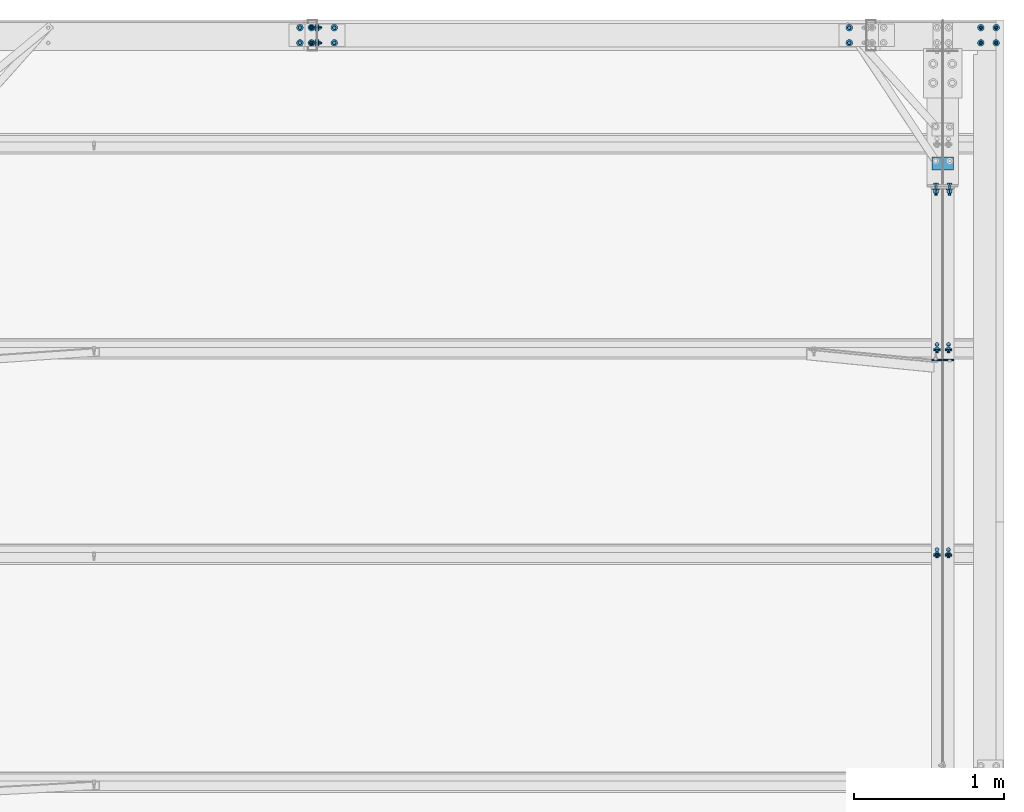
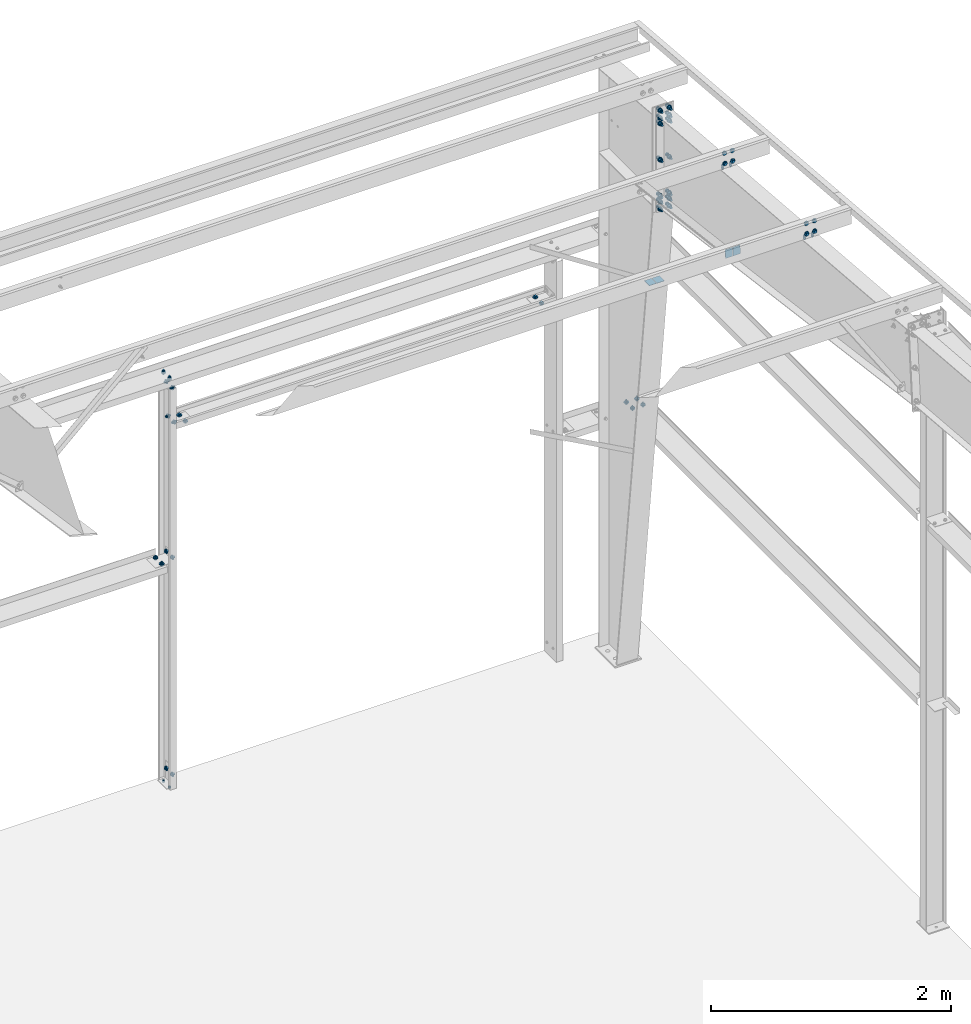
# One storey, part 117 of 185: 19 mechanical fasteners, 4 discrete accessories, 11 elements without a shape of their own.
"""IFC2X3 building model written with IfcOpenShell, lengths in millimetres."""

from ifc_helpers import new_model, si_unit, frame, origin_with_axes, origin_2d_with_axis, place, context, subcontext, project, spatial, polyline, rectangle, circle, outline, extrude, source, transform, mapped, material, type_object, element, aggregate, save


model = new_model("IFC2X3")

# Units and contexts
model_context = context("Model", 3, precision=1e-05, world=origin_with_axes())
body_context = subcontext(model_context, "Body", "Model", "MODEL_VIEW")
ifc_project = project(units=[si_unit("LENGTHUNIT", "METRE", prefix="MILLI"), si_unit("AREAUNIT", "SQUARE_METRE"), si_unit("VOLUMEUNIT", "CUBIC_METRE"), si_unit("MASSUNIT", "GRAM", prefix="KILO"), si_unit("TIMEUNIT", "SECOND"), si_unit("PLANEANGLEUNIT", "RADIAN"), si_unit("SOLIDANGLEUNIT", "STERADIAN"), si_unit("THERMODYNAMICTEMPERATUREUNIT", "DEGREE_CELSIUS"), si_unit("LUMINOUSINTENSITYUNIT", "LUMEN")], contexts=[model_context])

# Site, building, storey
site_placement = place(None, origin_with_axes())
site = spatial("IfcSite", under=ifc_project, at=site_placement, Name="Undefined", CompositionType="ELEMENT")
building_placement = place(site_placement, origin_with_axes())
building = spatial("IfcBuilding", under=site, at=building_placement, Name="Undefined", CompositionType="ELEMENT")
storey_placement = place(building_placement, origin_with_axes())
storey = spatial("IfcBuildingStorey", under=building, at=storey_placement, Name="Undefined", CompositionType="ELEMENT", Elevation=0.0)

# Assembly, mechanical fastener
assembly_1_placement = place(storey_placement, origin_with_axes())
assembly_1 = element("IfcElementAssembly", 1, at=assembly_1_placement, inside=storey, Name="Steel Assembly", AssemblyPlace="NOTDEFINED", PredefinedType="RIGID_FRAME")
ifc_material_1 = material(Name="Undefined")
discrete_accessory_type_1 = type_object("IfcDiscreteAccessoryType", Name="Bolt assembly")
shared_shape_1 = source(origin_with_axes(), body_context, "Body", "SweptSolid", [
    extrude(circle(Radius=7.14374971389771, at=origin_2d_with_axis()), frame((0.0, -1.4900000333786, 0.0), z_axis=(0.0, 1.0, 0.0), x_axis=(1.0, 0.0, 0.0)), (0.0, 0.0, 1.0), 3.2),
    extrude(circle(Radius=7.14374971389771, at=origin_2d_with_axis()), frame((0.0, -1.4900000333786, 0.0), z_axis=(0.0, 1.0, 0.0), x_axis=(1.0, 0.0, 0.0)), (0.0, 0.0, 1.0), 3.2),
    extrude(outline(polyline([(10.9985221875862, 0.0), (5.4992610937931, 9.52499961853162), (-5.4992610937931, 9.52499961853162), (-10.9985221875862, 0.0), (-5.4992610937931, -9.52499961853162), (5.4992610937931, -9.52499961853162), (10.9985221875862, 0.0)])), frame((0.0, -15.0837496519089, 0.0), z_axis=(0.0, 1.0, 0.0), x_axis=(1.0, 0.0, 0.0)), (0.0, 0.0, 1.0), 9.5),
    extrude(circle(Radius=6.34999990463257, at=origin_2d_with_axis()), frame((0.0, -5.5587500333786, 0.0), z_axis=(0.0, 1.0, 0.0), x_axis=(1.0, 0.0, 0.0)), (0.0, 0.0, 1.0), 38.1),
    extrude(circle(Radius=13.4937496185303, at=origin_2d_with_axis()), frame((0.0, -5.5587500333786, 0.0), z_axis=(0.0, 1.0, 0.0), x_axis=(1.0, 0.0, 0.0)), (0.0, 0.0, 1.0), 4.0),
    extrude(circle(Radius=22.2250003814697, at=origin_2d_with_axis()), frame((0.0, 1.5900000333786, 0.0), z_axis=(0.0, 1.0, 0.0), x_axis=(1.0, 0.0, 0.0)), (0.0, 0.0, 1.0), 7.9),
    extrude(outline(polyline([(12.8316099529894, 0.0), (6.4158049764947, 11.1125001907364), (-6.4158049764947, 11.1125001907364), (-12.8316099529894, 0.0), (-6.4158049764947, -11.1125001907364), (6.4158049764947, -11.1125001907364), (12.8316099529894, 0.0)])), frame((0.0, 9.5275000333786, 0.0), z_axis=(0.0, 1.0, 0.0), x_axis=(1.0, 0.0, 0.0)), (0.0, 0.0, 1.0), 12.3),
])
mechanical_fastener_1_placement = place(assembly_1_placement, frame((44805.6, 31902.4, 2286.0), z_axis=(0.0, -1.0, 0.0), x_axis=(1.0, 0.0, 0.0)))
mechanical_fastener_1 = element("IfcMechanicalFastener", 2, at=mechanical_fastener_1_placement, type_object=discrete_accessory_type_1, material=ifc_material_1, Name="Bolt assembly", NominalDiameter=12.6999998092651, NominalLength=38.0999984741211, context=body_context, shape_type="MappedRepresentation", body=[
    mapped(shared_shape_1, transform((0.0, 0.0, -50.7999992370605))),
    mapped(shared_shape_1, transform((101.599998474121, 0.0, -50.7999992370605))),
    mapped(shared_shape_1, transform((0.0, 0.0, 50.7999992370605))),
    mapped(shared_shape_1, transform((101.599998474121, 0.0, 50.7999992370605))),
])
aggregate(assembly_1, [mechanical_fastener_1])

# Assembly, mechanical fasteners
assembly_2_placement = place(storey_placement, origin_with_axes())
assembly_2 = element("IfcElementAssembly", 3, at=assembly_2_placement, inside=storey, Name="Steel Assembly", AssemblyPlace="NOTDEFINED", PredefinedType="RIGID_FRAME")
shared_shape_2 = source(origin_with_axes(), body_context, "Body", "SweptSolid", [
    extrude(circle(Radius=7.14374971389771, at=origin_2d_with_axis()), frame((0.0, -1.59000001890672, 0.0), z_axis=(0.0, 1.0, 0.0), x_axis=(1.0, 0.0, 0.0)), (0.0, 0.0, 1.0), 3.3),
    extrude(circle(Radius=13.4937496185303, at=origin_2d_with_axis()), frame((0.0, -5.5587500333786, 0.0), z_axis=(0.0, 1.0, 0.0), x_axis=(1.0, 0.0, 0.0)), (0.0, 0.0, 1.0), 4.0),
    extrude(circle(Radius=22.2250003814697, at=origin_2d_with_axis()), frame((0.0, 1.5900000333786, 0.0), z_axis=(0.0, 1.0, 0.0), x_axis=(1.0, 0.0, 0.0)), (0.0, 0.0, 1.0), 7.9),
    extrude(outline(polyline([(12.8316099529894, 0.0), (6.4158049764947, 11.1125001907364), (-6.4158049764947, 11.1125001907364), (-12.8316099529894, 0.0), (-6.4158049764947, -11.1125001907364), (6.4158049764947, -11.1125001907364), (12.8316099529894, 0.0)])), frame((0.0, 9.5275000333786, 0.0), z_axis=(0.0, 1.0, 0.0), x_axis=(1.0, 0.0, 0.0)), (0.0, 0.0, 1.0), 12.3),
])
mechanical_fastener_2_placement = place(assembly_2_placement, frame((44513.5, 29818.2760586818, 6227.16757843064), z_axis=(-1.0, 0.0, 0.0), x_axis=(0.0, -0.0830454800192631, -0.996545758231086)))
mechanical_fastener_2 = element("IfcMechanicalFastener", 4, at=mechanical_fastener_2_placement, type_object=discrete_accessory_type_1, material=ifc_material_1, Name="Bolt assembly", NominalDiameter=12.6999998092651, NominalLength=38.0999984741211, context=body_context, shape_type="MappedRepresentation", body=[
    mapped(shared_shape_2, transform((0.0, 0.0, 0.0))),
    mapped(shared_shape_2, transform((101.599998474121, 0.0, 0.0))),
])
mechanical_fastener_3_placement = place(assembly_2_placement, frame((44589.7, 29818.2760586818, 6227.16757843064), z_axis=(-1.0, 0.0, 0.0), x_axis=(0.0, -0.0830454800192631, -0.996545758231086)))
mechanical_fastener_3 = element("IfcMechanicalFastener", 5, at=mechanical_fastener_3_placement, type_object=discrete_accessory_type_1, material=ifc_material_1, Name="Bolt assembly", NominalDiameter=12.6999998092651, NominalLength=38.0999984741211, context=body_context, shape_type="MappedRepresentation", body=[
    mapped(shared_shape_2, transform((0.0, 0.0, 0.0))),
    mapped(shared_shape_2, transform((101.599998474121, 0.0, 0.0))),
])

assembly_3_placement = place(storey_placement, origin_with_axes())
assembly_3 = element("IfcElementAssembly", 6, at=assembly_3_placement, inside=storey, Name="Steel Assembly", AssemblyPlace="NOTDEFINED", PredefinedType="RIGID_FRAME")
mechanical_fastener_4_placement = place(assembly_3_placement, frame((44513.5, 28451.413896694, 6341.07275883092), z_axis=(-1.0, 0.0, 0.0), x_axis=(0.0, -0.0830454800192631, -0.996545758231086)))
mechanical_fastener_4 = element("IfcMechanicalFastener", 7, at=mechanical_fastener_4_placement, type_object=discrete_accessory_type_1, material=ifc_material_1, Name="Bolt assembly", NominalDiameter=12.6999998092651, NominalLength=38.0999984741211, context=body_context, shape_type="MappedRepresentation", body=[
    mapped(shared_shape_2, transform((0.0, 0.0, 0.0))),
    mapped(shared_shape_2, transform((101.599998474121, 0.0, 0.0))),
])
mechanical_fastener_5_placement = place(assembly_3_placement, frame((44589.7, 28451.413896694, 6341.07275883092), z_axis=(-1.0, 0.0, 0.0), x_axis=(0.0, -0.0830454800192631, -0.996545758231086)))
mechanical_fastener_5 = element("IfcMechanicalFastener", 8, at=mechanical_fastener_5_placement, type_object=discrete_accessory_type_1, material=ifc_material_1, Name="Bolt assembly", NominalDiameter=12.6999998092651, NominalLength=38.0999984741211, context=body_context, shape_type="MappedRepresentation", body=[
    mapped(shared_shape_2, transform((0.0, 0.0, 0.0))),
    mapped(shared_shape_2, transform((101.599998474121, 0.0, 0.0))),
])

# Assembly, mechanical fastener
assembly_4_placement = place(storey_placement, origin_with_axes())
assembly_4 = element("IfcElementAssembly", 9, at=assembly_4_placement, inside=storey, Name="Steel Assembly", AssemblyPlace="NOTDEFINED", PredefinedType="RIGID_FRAME")
shared_shape_3 = source(origin_with_axes(), body_context, "Body", "SweptSolid", [
    extrude(circle(Radius=7.14374971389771, at=origin_2d_with_axis()), frame((0.0, -3.08000006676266, 0.0), z_axis=(0.0, 1.0, 0.0), x_axis=(1.0, 0.0, 0.0)), (0.0, 0.0, 1.0), 3.2),
    extrude(circle(Radius=7.14374971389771, at=origin_2d_with_axis()), frame((0.0, -0.1, 0.0), z_axis=(0.0, 1.0, 0.0), x_axis=(1.0, 0.0, 0.0)), (0.0, 0.0, 1.0), 3.3),
    extrude(outline(polyline([(10.9985221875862, 0.0), (5.4992610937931, 9.52499961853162), (-5.4992610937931, 9.52499961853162), (-10.9985221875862, 0.0), (-5.4992610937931, -9.52499961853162), (5.4992610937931, -9.52499961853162), (10.9985221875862, 0.0)])), frame((0.0, -16.6737496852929, 0.0), z_axis=(0.0, 1.0, 0.0), x_axis=(1.0, 0.0, 0.0)), (0.0, 0.0, 1.0), 9.5),
    extrude(circle(Radius=6.34999990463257, at=origin_2d_with_axis()), frame((0.0, -7.14875006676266, 0.0), z_axis=(0.0, 1.0, 0.0), x_axis=(1.0, 0.0, 0.0)), (0.0, 0.0, 1.0), 38.1),
    extrude(circle(Radius=13.4937496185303, at=origin_2d_with_axis()), frame((0.0, -7.14875006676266, 0.0), z_axis=(0.0, 1.0, 0.0), x_axis=(1.0, 0.0, 0.0)), (0.0, 0.0, 1.0), 4.0),
    extrude(circle(Radius=22.2250003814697, at=origin_2d_with_axis()), frame((0.0, 3.17500610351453, 0.0), z_axis=(0.0, 1.0, 0.0), x_axis=(1.0, 0.0, 0.0)), (0.0, 0.0, 1.0), 7.9),
    extrude(outline(polyline([(12.8316099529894, 0.0), (6.4158049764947, 11.1125001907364), (-6.4158049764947, 11.1125001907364), (-12.8316099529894, 0.0), (-6.4158049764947, -11.1125001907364), (6.4158049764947, -11.1125001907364), (12.8316099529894, 0.0)])), frame((0.0, 11.1125061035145, 0.0), z_axis=(0.0, 1.0, 0.0), x_axis=(1.0, 0.0, 0.0)), (0.0, 0.0, 1.0), 12.3),
])
mechanical_fastener_6_placement = place(assembly_4_placement, frame((40386.0, 31902.4, 3695.7), z_axis=(0.0, 1.0, 0.0), x_axis=(0.0, 0.0, 1.0)))
mechanical_fastener_6 = element("IfcMechanicalFastener", 10, at=mechanical_fastener_6_placement, type_object=discrete_accessory_type_1, material=ifc_material_1, Name="Bolt assembly", NominalDiameter=12.6999998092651, NominalLength=38.0999984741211, context=body_context, shape_type="MappedRepresentation", body=[
    mapped(shared_shape_3, transform((0.0, 0.0, -50.7999992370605))),
    mapped(shared_shape_3, transform((0.0, 0.0, 50.7999992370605))),
])

# Assembly, mechanical fasteners
assembly_5_placement = place(storey_placement, origin_with_axes())
assembly_5 = element("IfcElementAssembly", 11, at=assembly_5_placement, inside=storey, Name="Steel Assembly", AssemblyPlace="NOTDEFINED", PredefinedType="RIGID_FRAME")
mechanical_fastener_7_placement = place(assembly_5_placement, frame((40347.9, 31902.4, 4164.00999996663), z_axis=(0.0, -1.0, 0.0), x_axis=(-1.0, 0.0, 0.0)))
mechanical_fastener_7 = element("IfcMechanicalFastener", 12, at=mechanical_fastener_7_placement, type_object=discrete_accessory_type_1, material=ifc_material_1, Name="Bolt assembly", NominalDiameter=12.6999998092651, NominalLength=38.0999984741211, context=body_context, shape_type="MappedRepresentation", body=[
    mapped(shared_shape_3, transform((0.0, 0.0, -50.7999992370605))),
    mapped(shared_shape_3, transform((0.0, 0.0, 50.7999992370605))),
])
mechanical_fastener_8_placement = place(assembly_5_placement, frame((40382.8199996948, 31902.4, 4051.3), z_axis=(0.0, 1.0, 0.0), x_axis=(0.0, 0.0, -1.0)))
mechanical_fastener_8 = element("IfcMechanicalFastener", 13, at=mechanical_fastener_8_placement, type_object=discrete_accessory_type_1, material=ifc_material_1, Name="Bolt assembly", NominalDiameter=12.6999998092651, NominalLength=38.0999984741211, context=body_context, shape_type="MappedRepresentation", body=[
    mapped(shared_shape_3, transform((0.0, 0.0, -50.7999992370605))),
    mapped(shared_shape_3, transform((0.0, 0.0, 50.7999992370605))),
])
aggregate(assembly_5, [mechanical_fastener_7, mechanical_fastener_8])

# Assembly, mechanical fastener
assembly_6_placement = place(storey_placement, origin_with_axes())
assembly_6 = element("IfcElementAssembly", 14, at=assembly_6_placement, inside=storey, Name="Steel Assembly", AssemblyPlace="NOTDEFINED", PredefinedType="RIGID_FRAME")
mechanical_fastener_9_placement = place(assembly_6_placement, frame((40271.7, 31902.4, 2287.59000003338), z_axis=(0.0, 1.0, 0.0), x_axis=(-1.0, 0.0, 0.0)))
mechanical_fastener_9 = element("IfcMechanicalFastener", 15, at=mechanical_fastener_9_placement, type_object=discrete_accessory_type_1, material=ifc_material_1, Name="Bolt assembly", NominalDiameter=12.6999998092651, NominalLength=38.0999984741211, context=body_context, shape_type="MappedRepresentation", body=[
    mapped(shared_shape_3, transform((0.0, 0.0, -50.7999992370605))),
    mapped(shared_shape_3, transform((0.0, 0.0, 50.7999992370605))),
])

assembly_7_placement = place(storey_placement, origin_with_axes())
assembly_7 = element("IfcElementAssembly", 16, at=assembly_7_placement, inside=storey, Name="Steel Assembly", AssemblyPlace="NOTDEFINED", PredefinedType="RIGID_FRAME")
shared_shape_4 = source(origin_with_axes(), body_context, "Body", "SweptSolid", [
    extrude(circle(Radius=7.14374971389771, at=origin_2d_with_axis()), frame((0.0, -3.17500610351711, 0.0), z_axis=(0.0, 1.0, 0.0), x_axis=(1.0, 0.0, 0.0)), (0.0, 0.0, 1.0), 3.3),
    extrude(outline(polyline([(12.8316099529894, 0.0), (6.4158049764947, 11.1125001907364), (-6.4158049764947, 11.1125001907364), (-12.8316099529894, 0.0), (-6.4158049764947, -11.1125001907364), (6.4158049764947, -11.1125001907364), (12.8316099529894, 0.0)])), frame((0.0, 0.0, 0.0), z_axis=(0.0, 1.0, 0.0), x_axis=(1.0, 0.0, 0.0)), (0.0, 0.0, 1.0), 12.3),
])
mechanical_fastener_10_placement = place(assembly_7_placement, frame((40347.9, 31902.4, 0.0), z_axis=(0.0, -1.0, 0.0), x_axis=(-1.0, 0.0, 0.0)))
mechanical_fastener_10 = element("IfcMechanicalFastener", 17, at=mechanical_fastener_10_placement, type_object=discrete_accessory_type_1, material=ifc_material_1, Name="Bolt assembly", NominalDiameter=12.6999998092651, NominalLength=38.0999984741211, context=body_context, shape_type="MappedRepresentation", body=[
    mapped(shared_shape_4, transform((0.0, 0.0, -50.7999992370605))),
    mapped(shared_shape_4, transform((0.0, 0.0, 50.7999992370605))),
])
aggregate(assembly_7, [mechanical_fastener_10])

assembly_8_placement = place(storey_placement, origin_with_axes())
assembly_8 = element("IfcElementAssembly", 18, at=assembly_8_placement, inside=storey, Name="Steel Assembly", AssemblyPlace="NOTDEFINED", PredefinedType="RIGID_FRAME")
shared_shape_5 = source(origin_with_axes(), body_context, "Body", "SweptSolid", [
    extrude(circle(Radius=7.14374971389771, at=origin_2d_with_axis()), frame((0.0, -0.1, 0.0), z_axis=(0.0, 1.0, 0.0), x_axis=(1.0, 0.0, 0.0)), (0.0, 0.0, 1.0), 3.3),
    extrude(circle(Radius=7.14374971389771, at=origin_2d_with_axis()), frame((0.0, -3.07500000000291, 0.0), z_axis=(0.0, 1.0, 0.0), x_axis=(1.0, 0.0, 0.0)), (0.0, 0.0, 1.0), 3.2),
    extrude(outline(polyline([(10.9985221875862, 0.0), (5.4992610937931, 9.52499961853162), (-5.4992610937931, 9.52499961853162), (-10.9985221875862, 0.0), (-5.4992610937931, -9.52499961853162), (5.4992610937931, -9.52499961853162), (10.9985221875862, 0.0)])), frame((0.0, -11.1125000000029, 0.0), z_axis=(0.0, 1.0, 0.0), x_axis=(1.0, 0.0, 0.0)), (0.0, 0.0, 1.0), 7.9),
    extrude(circle(Radius=6.34999990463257, at=origin_2d_with_axis()), frame((0.0, -3.17500610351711, 0.0), z_axis=(0.0, 1.0, 0.0), x_axis=(1.0, 0.0, 0.0)), (0.0, 0.0, 1.0), 25.4),
    extrude(circle(Radius=22.2250003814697, at=origin_2d_with_axis()), frame((0.0, 3.17500610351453, 0.0), z_axis=(0.0, 1.0, 0.0), x_axis=(1.0, 0.0, 0.0)), (0.0, 0.0, 1.0), 7.9),
    extrude(outline(polyline([(12.8316099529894, 0.0), (6.4158049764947, 11.1125001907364), (-6.4158049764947, 11.1125001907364), (-12.8316099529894, 0.0), (-6.4158049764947, -11.1125001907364), (6.4158049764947, -11.1125001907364), (12.8316099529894, 0.0)])), frame((0.0, 11.1125061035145, 0.0), z_axis=(0.0, 1.0, 0.0), x_axis=(1.0, 0.0, 0.0)), (0.0, 0.0, 1.0), 12.3),
])
mechanical_fastener_11_placement = place(assembly_8_placement, frame((40382.825, 31902.4, 114.3), z_axis=(0.0, -1.0, 0.0), x_axis=(0.0, 0.0, 1.0)))
mechanical_fastener_11 = element("IfcMechanicalFastener", 19, at=mechanical_fastener_11_placement, type_object=discrete_accessory_type_1, material=ifc_material_1, Name="Bolt assembly", NominalDiameter=12.6999998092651, NominalLength=25.3999996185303, context=body_context, shape_type="MappedRepresentation", body=[
    mapped(shared_shape_5, transform((0.0, 0.0, -50.7999992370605))),
    mapped(shared_shape_5, transform((0.0, 0.0, 50.7999992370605))),
])
aggregate(assembly_8, [mechanical_fastener_11])

assembly_9_placement = place(storey_placement, origin_with_axes())
assembly_9 = element("IfcElementAssembly", 20, at=assembly_9_placement, inside=storey, Name="Steel Assembly", AssemblyPlace="NOTDEFINED", PredefinedType="RIGID_FRAME")
shared_shape_6 = source(origin_with_axes(), body_context, "Body", "SweptSolid", [
    extrude(circle(Radius=7.14374971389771, at=origin_2d_with_axis()), frame((0.0, -3.08000006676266, 0.0), z_axis=(0.0, 1.0, 0.0), x_axis=(1.0, 0.0, 0.0)), (0.0, 0.0, 1.0), 3.2),
    extrude(circle(Radius=7.14374971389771, at=origin_2d_with_axis()), frame((0.0, -0.1, 0.0), z_axis=(0.0, 1.0, 0.0), x_axis=(1.0, 0.0, 0.0)), (0.0, 0.0, 1.0), 3.3),
    extrude(outline(polyline([(10.9985221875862, 0.0), (5.4992610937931, 9.52499961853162), (-5.4992610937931, 9.52499961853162), (-10.9985221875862, 0.0), (-5.4992610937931, -9.52499961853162), (5.4992610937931, -9.52499961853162), (10.9985221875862, 0.0)])), frame((0.0, -11.1175003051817, 0.0), z_axis=(0.0, 1.0, 0.0), x_axis=(1.0, 0.0, 0.0)), (0.0, 0.0, 1.0), 7.9),
    extrude(circle(Radius=6.34999990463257, at=origin_2d_with_axis()), frame((0.0, -3.18000030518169, 0.0), z_axis=(0.0, 1.0, 0.0), x_axis=(1.0, 0.0, 0.0)), (0.0, 0.0, 1.0), 25.4),
    extrude(circle(Radius=22.2250003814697, at=origin_2d_with_axis()), frame((0.0, 3.17500610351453, 0.0), z_axis=(0.0, 1.0, 0.0), x_axis=(1.0, 0.0, 0.0)), (0.0, 0.0, 1.0), 7.9),
    extrude(outline(polyline([(12.8316099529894, 0.0), (6.4158049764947, 11.1125001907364), (-6.4158049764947, 11.1125001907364), (-12.8316099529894, 0.0), (-6.4158049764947, -11.1125001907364), (6.4158049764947, -11.1125001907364), (12.8316099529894, 0.0)])), frame((0.0, 11.1125061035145, 0.0), z_axis=(0.0, 1.0, 0.0), x_axis=(1.0, 0.0, 0.0)), (0.0, 0.0, 1.0), 12.3),
])
mechanical_fastener_12_placement = place(assembly_9_placement, frame((43929.3, 31902.4, 3660.78000030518), z_axis=(0.0, 1.0, 0.0), x_axis=(-1.0, 0.0, 0.0)))
mechanical_fastener_12 = element("IfcMechanicalFastener", 21, at=mechanical_fastener_12_placement, type_object=discrete_accessory_type_1, material=ifc_material_1, Name="Bolt assembly", NominalDiameter=12.6999998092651, NominalLength=25.3999996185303, context=body_context, shape_type="MappedRepresentation", body=[
    mapped(shared_shape_6, transform((0.0, 0.0, -50.7999992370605))),
    mapped(shared_shape_6, transform((0.0, 0.0, 50.7999992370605))),
])
aggregate(assembly_9, [mechanical_fastener_12])

# Mechanical fastener
mechanical_fastener_13_placement = place(assembly_4_placement, frame((40500.3, 31902.4, 3660.78000030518), z_axis=(0.0, -1.0, 0.0), x_axis=(1.0, 0.0, 0.0)))
mechanical_fastener_13 = element("IfcMechanicalFastener", 22, at=mechanical_fastener_13_placement, type_object=discrete_accessory_type_1, material=ifc_material_1, Name="Bolt assembly", NominalDiameter=12.6999998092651, NominalLength=25.3999996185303, context=body_context, shape_type="MappedRepresentation", body=[
    mapped(shared_shape_6, transform((0.0, 0.0, -50.7999992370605))),
    mapped(shared_shape_6, transform((0.0, 0.0, 50.7999992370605))),
])

aggregate(assembly_4, [mechanical_fastener_6, mechanical_fastener_13])

mechanical_fastener_14_placement = place(assembly_6_placement, frame((40382.8199996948, 31902.4, 2324.1), z_axis=(0.0, -1.0, 0.0), x_axis=(0.0, 0.0, 1.0)))
mechanical_fastener_14 = element("IfcMechanicalFastener", 23, at=mechanical_fastener_14_placement, type_object=discrete_accessory_type_1, material=ifc_material_1, Name="Bolt assembly", NominalDiameter=12.6999998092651, NominalLength=25.3999996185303, context=body_context, shape_type="MappedRepresentation", body=[
    mapped(shared_shape_6, transform((0.0, 0.0, -50.7999992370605))),
    mapped(shared_shape_6, transform((0.0, 0.0, 50.7999992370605))),
])

aggregate(assembly_6, [mechanical_fastener_14, mechanical_fastener_9])

# Assembly, discrete accessories
assembly_10_placement = place(storey_placement, origin_with_axes())
assembly_10 = element("IfcElementAssembly", 24, at=assembly_10_placement, inside=storey, Name="Steel Assembly", AssemblyPlace="NOTDEFINED", PredefinedType="RIGID_FRAME")
ifc_material_2 = material(Name="STEEL/55")
discrete_accessory_type_2 = type_object("IfcDiscreteAccessoryType", Name="FLANGE BRACE FLIP")
discrete_accessory_1_placement = place(assembly_10_placement, frame((44553.98125, 31047.9856495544, 4163.89185), z_axis=(0.0, -1.0, 0.0), x_axis=(1.0, 0.0, 0.0)))
discrete_accessory_1 = element("IfcDiscreteAccessory", 25, at=discrete_accessory_1_placement, type_object=discrete_accessory_type_2, material=ifc_material_2, Name="FLANGE BRACE FLIP", ObjectType="PL1/8\"X2 3/4\"", context=body_context, shape_type="SweptSolid", body=[
    extrude(rectangle(XDim=3.4163, YDim=85.725, at=origin_2d_with_axis()), frame((69.8499999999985, 0.0, 0.0), z_axis=(-1.0, 0.0, 0.0), x_axis=(0.0, -1.0, 0.0)), (0.0, 0.0, 1.0), 69.8),
])
discrete_accessory_2_placement = place(assembly_10_placement, frame((44549.21875, 31047.9856495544, 4163.89185), z_axis=(0.0, -1.0, 0.0), x_axis=(-1.0, 0.0, 0.0)))
discrete_accessory_2 = element("IfcDiscreteAccessory", 26, at=discrete_accessory_2_placement, type_object=discrete_accessory_type_2, material=ifc_material_2, Name="FLANGE BRACE FLIP", ObjectType="PL1/8\"X2 3/4\"", context=body_context, shape_type="SweptSolid", body=[
    extrude(rectangle(XDim=3.4163, YDim=85.725, at=origin_2d_with_axis()), frame((69.8499999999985, 0.0, 0.0), z_axis=(-1.0, 0.0, 0.0), x_axis=(0.0, -1.0, 0.0)), (0.0, 0.0, 1.0), 69.8),
])

assembly_11_placement = place(storey_placement, origin_with_axes())
assembly_11 = element("IfcElementAssembly", 27, at=assembly_11_placement, inside=storey, Name="Steel Assembly", AssemblyPlace="NOTDEFINED", PredefinedType="RIGID_FRAME")
discrete_accessory_3_placement = place(assembly_11_placement, frame((44549.21875, 29738.9844964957, 5255.10178843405), z_axis=(0.0, 0.0830454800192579, 0.996545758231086), x_axis=(-1.0, 0.0, 0.0)))
discrete_accessory_3 = element("IfcDiscreteAccessory", 28, at=discrete_accessory_3_placement, type_object=discrete_accessory_type_2, material=ifc_material_2, Name="FLANGE BRACE FLIP", ObjectType="PL1/8\"X2 3/4\"", context=body_context, shape_type="SweptSolid", body=[
    extrude(rectangle(XDim=3.416, YDim=85.725, at=origin_2d_with_axis()), frame((69.8499999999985, 0.0, 0.0), z_axis=(-1.0, 0.0, 0.0), x_axis=(0.0, -1.0, 0.0)), (0.0, 0.0, 1.0), 69.8),
])
discrete_accessory_4_placement = place(assembly_11_placement, frame((44553.98125, 29738.9844964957, 5255.10178843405), z_axis=(0.0, 0.0830454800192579, 0.996545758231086), x_axis=(1.0, 0.0, 0.0)))
discrete_accessory_4 = element("IfcDiscreteAccessory", 29, at=discrete_accessory_4_placement, type_object=discrete_accessory_type_2, material=ifc_material_2, Name="FLANGE BRACE FLIP", ObjectType="PL1/8\"X2 3/4\"", context=body_context, shape_type="SweptSolid", body=[
    extrude(rectangle(XDim=3.416, YDim=85.725, at=origin_2d_with_axis()), frame((69.8499999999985, 0.0, 0.0), z_axis=(-1.0, 0.0, 0.0), x_axis=(0.0, -1.0, 0.0)), (0.0, 0.0, 1.0), 69.8),
])
aggregate(assembly_11, [discrete_accessory_3, discrete_accessory_4])

# Mechanical fastener
shared_shape_7 = source(origin_with_axes(), body_context, "Body", "SweptSolid", [
    extrude(circle(Radius=10.3187494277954, at=origin_2d_with_axis()), frame((0.0, -0.1, 0.0), z_axis=(0.0, 1.0, 0.0), x_axis=(1.0, 0.0, 0.0)), (0.0, 0.0, 1.0), 12.8),
    extrude(circle(Radius=10.3187494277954, at=origin_2d_with_axis()), frame((0.0, -12.5999999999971, 0.0), z_axis=(0.0, 1.0, 0.0), x_axis=(1.0, 0.0, 0.0)), (0.0, 0.0, 1.0), 12.7),
    extrude(outline(polyline([(18.3308710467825, 0.0), (9.16543552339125, 15.8750000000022), (-9.16543552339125, 15.8750000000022), (-18.3308710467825, 0.0), (-9.16543552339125, -15.8750000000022), (9.16543552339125, -15.8750000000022), (18.3308710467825, 0.0)])), frame((0.0, -24.6062499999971, 0.0), z_axis=(0.0, 1.0, 0.0), x_axis=(1.0, 0.0, 0.0)), (0.0, 0.0, 1.0), 11.9),
    extrude(circle(Radius=9.52499961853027, at=origin_2d_with_axis()), frame((0.0, -12.6999999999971, 0.0), z_axis=(0.0, 1.0, 0.0), x_axis=(1.0, 0.0, 0.0)), (0.0, 0.0, 1.0), 69.8),
    extrude(circle(Radius=22.2250003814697, at=origin_2d_with_axis()), frame((0.0, 12.6999999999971, 0.0), z_axis=(0.0, 1.0, 0.0), x_axis=(1.0, 0.0, 0.0)), (0.0, 0.0, 1.0), 7.9),
    extrude(outline(polyline([(18.3308710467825, 0.0), (9.16543552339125, 15.8750000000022), (-9.16543552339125, 15.8750000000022), (-18.3308710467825, 0.0), (-9.16543552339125, -15.8750000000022), (9.16543552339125, -15.8750000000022), (18.3308710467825, 0.0)])), frame((0.0, 20.6374999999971, 0.0), z_axis=(0.0, 1.0, 0.0), x_axis=(1.0, 0.0, 0.0)), (0.0, 0.0, 1.0), 19.0),
])
mechanical_fastener_15_placement = place(assembly_10_placement, frame((44551.6, 30892.75, 5519.48231067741), z_axis=(-1.0, 0.0, 0.0), x_axis=(0.0, 0.0, -1.0)))
mechanical_fastener_15 = element("IfcMechanicalFastener", 30, at=mechanical_fastener_15_placement, type_object=discrete_accessory_type_1, material=ifc_material_1, Name="Bolt assembly", NominalDiameter=19.0499992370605, NominalLength=69.8499984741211, context=body_context, shape_type="MappedRepresentation", body=[
    mapped(shared_shape_7, transform((0.0, 0.0, -44.4500007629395))),
    mapped(shared_shape_7, transform((0.0, 0.0, 44.4500007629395))),
])

mechanical_fastener_16_placement = place(assembly_10_placement, frame((44551.6, 30892.75, 5017.83231443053), z_axis=(1.0, 0.0, 0.0), x_axis=(0.0, 0.0, 1.0)))
mechanical_fastener_16 = element("IfcMechanicalFastener", 31, at=mechanical_fastener_16_placement, type_object=discrete_accessory_type_1, material=ifc_material_1, Name="Bolt assembly", NominalDiameter=19.0499992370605, NominalLength=69.8499984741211, context=body_context, shape_type="MappedRepresentation", body=[
    mapped(shared_shape_7, transform((0.0, 0.0, -44.4500007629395))),
    mapped(shared_shape_7, transform((76.1999969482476, 0.0, -44.4500007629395))),
    mapped(shared_shape_7, transform((133.350006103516, 0.0, -44.4500007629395))),
    mapped(shared_shape_7, transform((0.0, 0.0, 44.4500007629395))),
    mapped(shared_shape_7, transform((76.1999969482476, 0.0, 44.4500007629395))),
    mapped(shared_shape_7, transform((133.350006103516, 0.0, 44.4500007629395))),
])

mechanical_fastener_17_placement = place(assembly_10_placement, frame((44551.6, 30892.75, 6021.13231192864), z_axis=(-1.0, 0.0, 0.0), x_axis=(0.0, 0.0, -1.0)))
mechanical_fastener_17 = element("IfcMechanicalFastener", 32, at=mechanical_fastener_17_placement, type_object=discrete_accessory_type_1, material=ifc_material_1, Name="Bolt assembly", NominalDiameter=19.0499992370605, NominalLength=69.8499984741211, context=body_context, shape_type="MappedRepresentation", body=[
    mapped(shared_shape_7, transform((0.0, 0.0, -44.4500007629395))),
    mapped(shared_shape_7, transform((76.1999969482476, 0.0, -44.4500007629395))),
    mapped(shared_shape_7, transform((133.350006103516, 0.0, -44.4500007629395))),
    mapped(shared_shape_7, transform((0.0, 0.0, 44.4500007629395))),
    mapped(shared_shape_7, transform((76.1999969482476, 0.0, 44.4500007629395))),
    mapped(shared_shape_7, transform((133.350006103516, 0.0, 44.4500007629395))),
])

aggregate(assembly_10, [mechanical_fastener_15, discrete_accessory_1, discrete_accessory_2, mechanical_fastener_16, mechanical_fastener_17])

shared_shape_8 = source(origin_with_axes(), body_context, "Body", "SweptSolid", [
    extrude(circle(Radius=7.14374971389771, at=origin_2d_with_axis()), frame((0.0, -0.1, 0.0), z_axis=(0.0, 1.0, 0.0), x_axis=(1.0, 0.0, 0.0)), (0.0, 0.0, 1.0), 6.5),
    extrude(circle(Radius=7.14374971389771, at=origin_2d_with_axis()), frame((0.0, -3.08000006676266, 0.0), z_axis=(0.0, 1.0, 0.0), x_axis=(1.0, 0.0, 0.0)), (0.0, 0.0, 1.0), 3.2),
    extrude(outline(polyline([(10.9985221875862, 0.0), (5.4992610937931, 9.52499961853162), (-5.4992610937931, 9.52499961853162), (-10.9985221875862, 0.0), (-5.4992610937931, -9.52499961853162), (5.4992610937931, -9.52499961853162), (10.9985221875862, 0.0)])), frame((0.0, -16.6737496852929, 0.0), z_axis=(0.0, 1.0, 0.0), x_axis=(1.0, 0.0, 0.0)), (0.0, 0.0, 1.0), 9.5),
    extrude(circle(Radius=6.34999990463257, at=origin_2d_with_axis()), frame((0.0, -7.14875006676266, 0.0), z_axis=(0.0, 1.0, 0.0), x_axis=(1.0, 0.0, 0.0)), (0.0, 0.0, 1.0), 38.1),
    extrude(circle(Radius=13.4937496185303, at=origin_2d_with_axis()), frame((0.0, -7.14875006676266, 0.0), z_axis=(0.0, 1.0, 0.0), x_axis=(1.0, 0.0, 0.0)), (0.0, 0.0, 1.0), 4.0),
    extrude(outline(polyline([(12.8316099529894, 0.0), (6.4158049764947, 11.1125001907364), (-6.4158049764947, 11.1125001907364), (-12.8316099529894, 0.0), (-6.4158049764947, -11.1125001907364), (6.4158049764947, -11.1125001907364), (12.8316099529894, 0.0)])), frame((0.0, 6.35000000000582, 0.0), z_axis=(0.0, 1.0, 0.0), x_axis=(1.0, 0.0, 0.0)), (0.0, 0.0, 1.0), 12.3),
])
mechanical_fastener_18_placement = place(assembly_2_placement, frame((44551.6, 29843.5883209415, 6072.12997209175), z_axis=(-1.0, 0.0, 0.0), x_axis=(0.0, 0.996545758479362, -0.0830454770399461)))
mechanical_fastener_18 = element("IfcMechanicalFastener", 33, at=mechanical_fastener_18_placement, type_object=discrete_accessory_type_1, material=ifc_material_1, Name="Bolt assembly", NominalDiameter=12.6999998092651, NominalLength=38.0999984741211, context=body_context, shape_type="MappedRepresentation", body=[
    mapped(shared_shape_8, transform((0.0, 0.0, -38.0999984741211))),
    mapped(shared_shape_8, transform((0.0, 0.0, 38.0999984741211))),
])

aggregate(assembly_2, [mechanical_fastener_18, mechanical_fastener_2, mechanical_fastener_3])

shared_shape_9 = source(origin_with_axes(), body_context, "Body", "SweptSolid", [
    extrude(circle(Radius=7.14374971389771, at=origin_2d_with_axis()), frame((0.0, -0.1, 0.0), z_axis=(0.0, 1.0, 0.0), x_axis=(1.0, 0.0, 0.0)), (0.0, 0.0, 1.0), 6.4),
    extrude(circle(Radius=7.14374971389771, at=origin_2d_with_axis()), frame((0.0, -3.08000006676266, 0.0), z_axis=(0.0, 1.0, 0.0), x_axis=(1.0, 0.0, 0.0)), (0.0, 0.0, 1.0), 3.2),
    extrude(outline(polyline([(10.9985221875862, 0.0), (5.4992610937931, 9.52499961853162), (-5.4992610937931, 9.52499961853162), (-10.9985221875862, 0.0), (-5.4992610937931, -9.52499961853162), (5.4992610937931, -9.52499961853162), (10.9985221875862, 0.0)])), frame((0.0, -16.6737496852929, 0.0), z_axis=(0.0, 1.0, 0.0), x_axis=(1.0, 0.0, 0.0)), (0.0, 0.0, 1.0), 9.5),
    extrude(circle(Radius=6.34999990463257, at=origin_2d_with_axis()), frame((0.0, -7.14875006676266, 0.0), z_axis=(0.0, 1.0, 0.0), x_axis=(1.0, 0.0, 0.0)), (0.0, 0.0, 1.0), 38.1),
    extrude(circle(Radius=13.4937496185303, at=origin_2d_with_axis()), frame((0.0, -7.14875006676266, 0.0), z_axis=(0.0, 1.0, 0.0), x_axis=(1.0, 0.0, 0.0)), (0.0, 0.0, 1.0), 4.0),
    extrude(outline(polyline([(12.8316099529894, 0.0), (6.4158049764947, 11.1125001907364), (-6.4158049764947, 11.1125001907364), (-12.8316099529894, 0.0), (-6.4158049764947, -11.1125001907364), (6.4158049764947, -11.1125001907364), (12.8316099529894, 0.0)])), frame((0.0, 6.35000000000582, 0.0), z_axis=(0.0, 1.0, 0.0), x_axis=(1.0, 0.0, 0.0)), (0.0, 0.0, 1.0), 12.3),
])
mechanical_fastener_19_placement = place(assembly_3_placement, frame((44551.6, 28476.7261589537, 6186.03515249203), z_axis=(-1.0, 0.0, 0.0), x_axis=(0.0, 0.996545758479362, -0.0830454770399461)))
mechanical_fastener_19 = element("IfcMechanicalFastener", 34, at=mechanical_fastener_19_placement, type_object=discrete_accessory_type_1, material=ifc_material_1, Name="Bolt assembly", NominalDiameter=12.6999998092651, NominalLength=38.0999984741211, context=body_context, shape_type="MappedRepresentation", body=[
    mapped(shared_shape_9, transform((0.0, 0.0, -38.0999984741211))),
    mapped(shared_shape_9, transform((0.0, 0.0, 38.0999984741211))),
])

aggregate(assembly_3, [mechanical_fastener_19, mechanical_fastener_4, mechanical_fastener_5])

save(model, "model.ifc")
